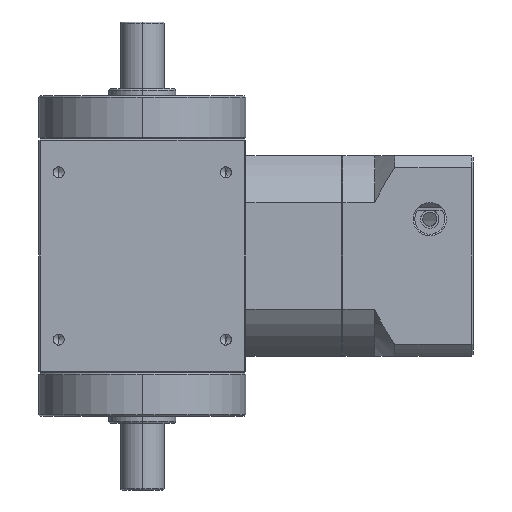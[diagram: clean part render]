
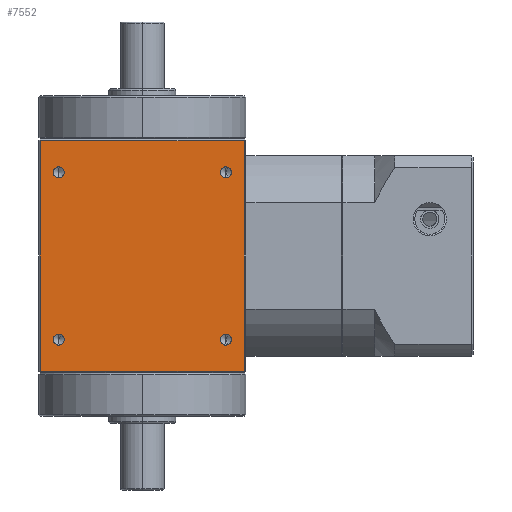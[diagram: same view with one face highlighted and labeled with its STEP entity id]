
A CAD part, left-side view. The second image highlights one B-rep face of the part: STEP entity #7552.
In plain terms, the highlighted planar face has unit normal (-1, 0, 0).
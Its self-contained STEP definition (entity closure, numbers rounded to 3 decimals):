
#147 = CARTESIAN_POINT ( 'NONE',  ( -31., 25., -25. ) ) ;
#148 = DIRECTION ( 'NONE',  ( -1., 0., 0. ) ) ;
#149 = DIRECTION ( 'NONE',  ( 0., 0., 1. ) ) ;
#187 = CARTESIAN_POINT ( 'NONE',  ( -31., -25., -25. ) ) ;
#188 = DIRECTION ( 'NONE',  ( -1., 0., 0. ) ) ;
#189 = DIRECTION ( 'NONE',  ( 0., 0., 1. ) ) ;
#757 = DIRECTION ( 'NONE',  ( -1., 0., 0. ) ) ;
#989 = CIRCLE ( 'NONE', #4889, 1.65 ) ;
#996 = CIRCLE ( 'NONE', #4888, 1.65 ) ;
#997 = CIRCLE ( 'NONE', #4887, 1.65 ) ;
#998 = CIRCLE ( 'NONE', #4890, 1.65 ) ;
#999 = LINE ( 'NONE', #5354, #1002 ) ;
#1000 = LINE ( 'NONE', #5353, #1004 ) ;
#1002 = VECTOR ( 'NONE', #5358, 1000. ) ;
#1003 = LINE ( 'NONE', #5360, #1006 ) ;
#1004 = VECTOR ( 'NONE', #5359, 1000. ) ;
#1005 = LINE ( 'NONE', #5362, #1008 ) ;
#1006 = VECTOR ( 'NONE', #5361, 1000. ) ;
#1008 = VECTOR ( 'NONE', #5363, 1000. ) ;
#1486 = CARTESIAN_POINT ( 'NONE',  ( -31., -31., 35. ) ) ;
#1487 = DIRECTION ( 'NONE',  ( 1., 0., 0. ) ) ;
#1490 = PLANE ( 'NONE',  #5077 ) ;
#1493 = DIRECTION ( 'NONE',  ( 0., 0., -1. ) ) ;
#1530 = CARTESIAN_POINT ( 'NONE',  ( -31., -25., 26.65 ) ) ;
#1641 = CARTESIAN_POINT ( 'NONE',  ( -31., 25., -26.65 ) ) ;
#1642 = CARTESIAN_POINT ( 'NONE',  ( -31., 30.5, -34.5 ) ) ;
#1658 = CARTESIAN_POINT ( 'NONE',  ( -31., -25., -26.65 ) ) ;
#1675 = CARTESIAN_POINT ( 'NONE',  ( -31., 25., 26.65 ) ) ;
#1716 = CARTESIAN_POINT ( 'NONE',  ( -31., -25., -23.35 ) ) ;
#1746 = CARTESIAN_POINT ( 'NONE',  ( -31., 25., 23.35 ) ) ;
#1753 = CARTESIAN_POINT ( 'NONE',  ( -31., 30.5, 34.5 ) ) ;
#1786 = CARTESIAN_POINT ( 'NONE',  ( -31., -30.5, 34.5 ) ) ;
#1794 = CARTESIAN_POINT ( 'NONE',  ( -31., 25., -23.35 ) ) ;
#1805 = CARTESIAN_POINT ( 'NONE',  ( -31., -30.5, -34.5 ) ) ;
#1811 = CARTESIAN_POINT ( 'NONE',  ( -31., -25., 23.35 ) ) ;
#2366 = CIRCLE ( 'NONE', #4711, 1.65 ) ;
#2392 = CIRCLE ( 'NONE', #4714, 1.65 ) ;
#2962 = EDGE_CURVE ( 'NONE', #8645, #8158, #6265, .T. ) ;
#3563 = CARTESIAN_POINT ( 'NONE',  ( -31., 25., 25. ) ) ;
#3564 = DIRECTION ( 'NONE',  ( -1., 0., 0. ) ) ;
#3565 = DIRECTION ( 'NONE',  ( 0., 0., 1. ) ) ;
#4140 = CARTESIAN_POINT ( 'NONE',  ( -31., 25., -25. ) ) ;
#4634 = CARTESIAN_POINT ( 'NONE',  ( -31., -25., 25. ) ) ;
#4635 = DIRECTION ( 'NONE',  ( -1., 0., 0. ) ) ;
#4636 = DIRECTION ( 'NONE',  ( 0., 0., 1. ) ) ;
#4711 = AXIS2_PLACEMENT_3D ( 'NONE', #147, #148, #149 ) ;
#4714 = AXIS2_PLACEMENT_3D ( 'NONE', #187, #188, #189 ) ;
#4797 = AXIS2_PLACEMENT_3D ( 'NONE', #4634, #4635, #4636 ) ;
#4887 = AXIS2_PLACEMENT_3D ( 'NONE', #4140, #757, #5346 ) ;
#4888 = AXIS2_PLACEMENT_3D ( 'NONE', #5347, #5348, #5349 ) ;
#4889 = AXIS2_PLACEMENT_3D ( 'NONE', #5350, #5351, #5352 ) ;
#4890 = AXIS2_PLACEMENT_3D ( 'NONE', #5355, #5356, #5357 ) ;
#4966 = AXIS2_PLACEMENT_3D ( 'NONE', #3563, #3564, #3565 ) ;
#5077 = AXIS2_PLACEMENT_3D ( 'NONE', #1486, #1487, #1493 ) ;
#5346 = DIRECTION ( 'NONE',  ( 0., 0., 1. ) ) ;
#5347 = CARTESIAN_POINT ( 'NONE',  ( -31., 25., 25. ) ) ;
#5348 = DIRECTION ( 'NONE',  ( -1., 0., 0. ) ) ;
#5349 = DIRECTION ( 'NONE',  ( 0., 0., 1. ) ) ;
#5350 = CARTESIAN_POINT ( 'NONE',  ( -31., -25., 25. ) ) ;
#5351 = DIRECTION ( 'NONE',  ( -1., 0., 0. ) ) ;
#5352 = DIRECTION ( 'NONE',  ( 0., 0., 1. ) ) ;
#5353 = CARTESIAN_POINT ( 'NONE',  ( -31., -30.5, 35. ) ) ;
#5354 = CARTESIAN_POINT ( 'NONE',  ( -31., -31., -34.5 ) ) ;
#5355 = CARTESIAN_POINT ( 'NONE',  ( -31., -25., -25. ) ) ;
#5356 = DIRECTION ( 'NONE',  ( -1., 0., 0. ) ) ;
#5357 = DIRECTION ( 'NONE',  ( 0., 0., 1. ) ) ;
#5358 = DIRECTION ( 'NONE',  ( 0., -1., 0. ) ) ;
#5359 = DIRECTION ( 'NONE',  ( 0., 0., 1. ) ) ;
#5360 = CARTESIAN_POINT ( 'NONE',  ( -31., 31., 34.5 ) ) ;
#5361 = DIRECTION ( 'NONE',  ( 0., 1., 0. ) ) ;
#5362 = CARTESIAN_POINT ( 'NONE',  ( -31., 30.5, 35. ) ) ;
#5363 = DIRECTION ( 'NONE',  ( 0., 0., -1. ) ) ;
#5945 = ORIENTED_EDGE ( 'NONE', *, *, #7119, .F. ) ;
#5951 = ORIENTED_EDGE ( 'NONE', *, *, #2962, .F. ) ;
#5957 = ORIENTED_EDGE ( 'NONE', *, *, #8854, .F. ) ;
#5960 = ORIENTED_EDGE ( 'NONE', *, *, #7120, .F. ) ;
#5962 = ORIENTED_EDGE ( 'NONE', *, *, #7118, .F. ) ;
#6001 = ORIENTED_EDGE ( 'NONE', *, *, #7300, .F. ) ;
#6004 = ORIENTED_EDGE ( 'NONE', *, *, #8869, .F. ) ;
#6005 = ORIENTED_EDGE ( 'NONE', *, *, #7121, .F. ) ;
#6265 = CIRCLE ( 'NONE', #4797, 1.65 ) ;
#6650 = EDGE_LOOP ( 'NONE', ( #6005, #6004 ) ) ;
#6651 = EDGE_LOOP ( 'NONE', ( #5962, #5957 ) ) ;
#6657 = EDGE_LOOP ( 'NONE', ( #5960, #5951 ) ) ;
#6665 = EDGE_LOOP ( 'NONE', ( #5945, #6001 ) ) ;
#6696 = EDGE_LOOP ( 'NONE', ( #8461, #8474, #8512, #8476 ) ) ;
#7118 = EDGE_CURVE ( 'NONE', #8628, #8269, #997, .T. ) ;
#7119 = EDGE_CURVE ( 'NONE', #8303, #8580, #996, .T. ) ;
#7120 = EDGE_CURVE ( 'NONE', #8158, #8645, #989, .T. ) ;
#7121 = EDGE_CURVE ( 'NONE', #8550, #8286, #998, .T. ) ;
#7122 = EDGE_CURVE ( 'NONE', #8270, #8639, #999, .T. ) ;
#7123 = EDGE_CURVE ( 'NONE', #8639, #8620, #1000, .T. ) ;
#7124 = EDGE_CURVE ( 'NONE', #8620, #8587, #1003, .T. ) ;
#7125 = EDGE_CURVE ( 'NONE', #8587, #8270, #1005, .T. ) ;
#7300 = EDGE_CURVE ( 'NONE', #8580, #8303, #7680, .T. ) ;
#7552 = ADVANCED_FACE ( 'NONE', ( #8097, #8100, #8096, #8099, #8095 ), #1490, .F. ) ;
#7680 = CIRCLE ( 'NONE', #4966, 1.65 ) ;
#8095 = FACE_OUTER_BOUND ( 'NONE', #6696, .T. ) ;
#8096 = FACE_BOUND ( 'NONE', #6657, .T. ) ;
#8097 = FACE_BOUND ( 'NONE', #6651, .T. ) ;
#8099 = FACE_BOUND ( 'NONE', #6650, .T. ) ;
#8100 = FACE_BOUND ( 'NONE', #6665, .T. ) ;
#8158 = VERTEX_POINT ( 'NONE', #1530 ) ;
#8269 = VERTEX_POINT ( 'NONE', #1641 ) ;
#8270 = VERTEX_POINT ( 'NONE', #1642 ) ;
#8286 = VERTEX_POINT ( 'NONE', #1658 ) ;
#8303 = VERTEX_POINT ( 'NONE', #1675 ) ;
#8461 = ORIENTED_EDGE ( 'NONE', *, *, #7122, .T. ) ;
#8474 = ORIENTED_EDGE ( 'NONE', *, *, #7123, .T. ) ;
#8476 = ORIENTED_EDGE ( 'NONE', *, *, #7125, .T. ) ;
#8512 = ORIENTED_EDGE ( 'NONE', *, *, #7124, .T. ) ;
#8550 = VERTEX_POINT ( 'NONE', #1716 ) ;
#8580 = VERTEX_POINT ( 'NONE', #1746 ) ;
#8587 = VERTEX_POINT ( 'NONE', #1753 ) ;
#8620 = VERTEX_POINT ( 'NONE', #1786 ) ;
#8628 = VERTEX_POINT ( 'NONE', #1794 ) ;
#8639 = VERTEX_POINT ( 'NONE', #1805 ) ;
#8645 = VERTEX_POINT ( 'NONE', #1811 ) ;
#8854 = EDGE_CURVE ( 'NONE', #8269, #8628, #2366, .T. ) ;
#8869 = EDGE_CURVE ( 'NONE', #8286, #8550, #2392, .T. ) ;
